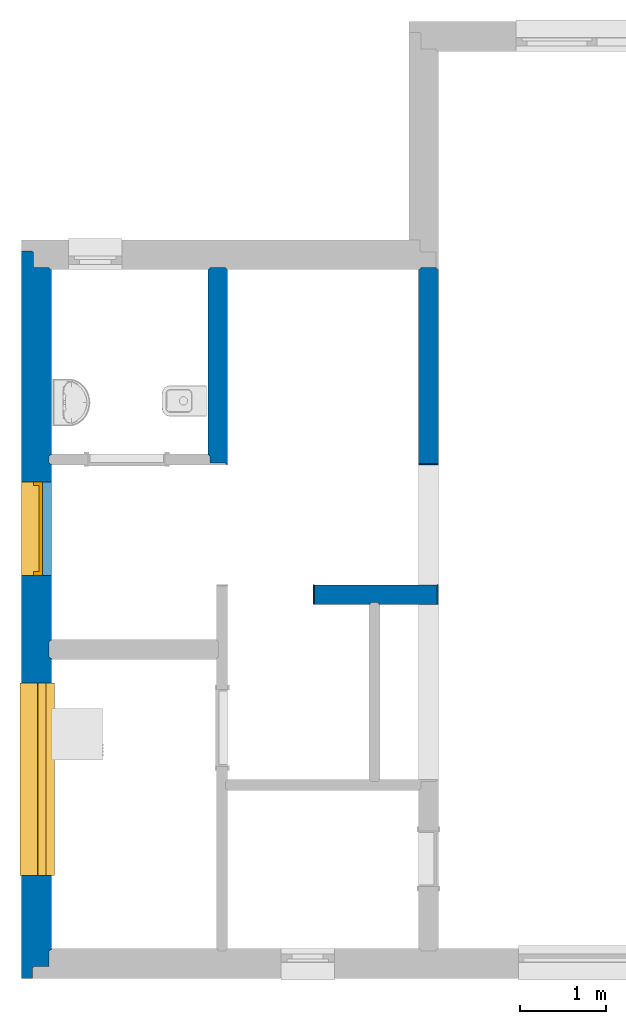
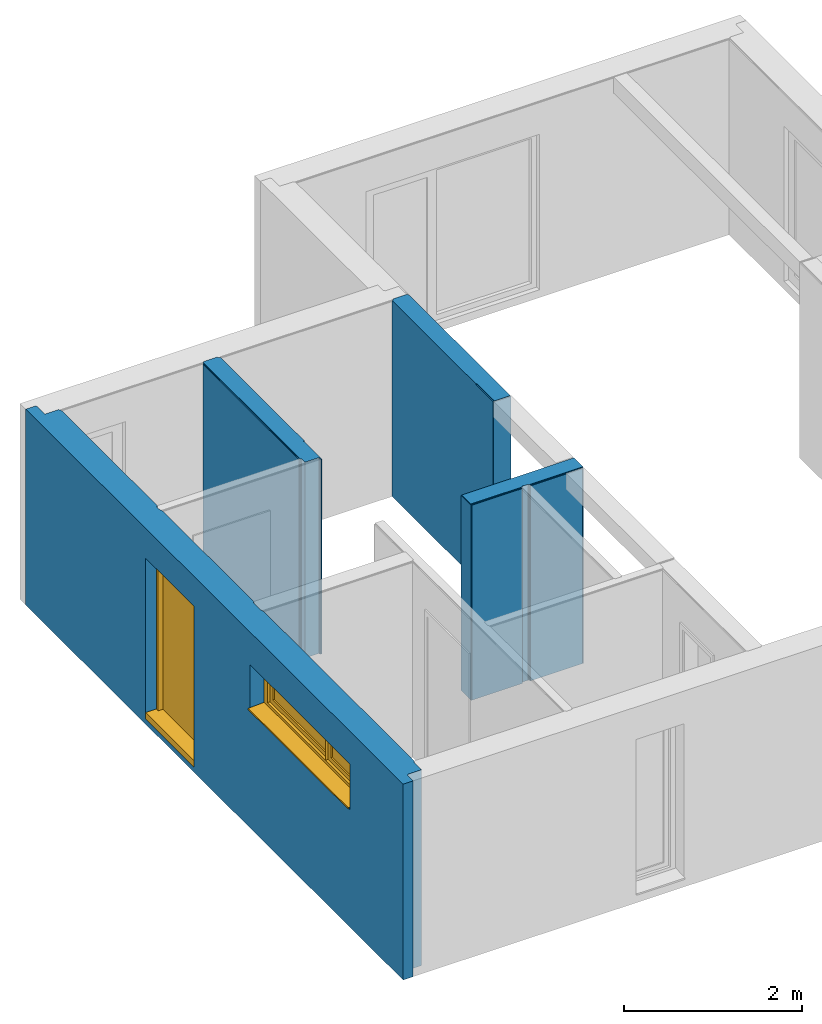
# One storey, part 3 of 6: 7 walls, 1 door, 1 window, 5 openings.
"""IFC2X3 building model written with IfcOpenShell, lengths in millimetres."""

from ifc_helpers import new_model, entity, si_unit, converted_unit, derived_unit, money_unit, direction, frame, origin_with_axes, place, context, subcontext, project, spatial, open_shell, faceted_brep, surface_model, material, material_list, type_object, element, fill, save


model = new_model("IFC2X3")

# Units and contexts
model_context = context("Model", 3, precision=0.01, world=origin_with_axes(), true_north=direction((0.0, 1.0)))
body_context = subcontext(model_context, "Body", "Model", "MODEL_VIEW")
ifc_project = project(units=[si_unit("LENGTHUNIT", "METRE", prefix="MILLI"), si_unit("AREAUNIT", "SQUARE_METRE"), si_unit("VOLUMEUNIT", "CUBIC_METRE"), converted_unit("PLANEANGLEUNIT", "DEGREE", entity("IfcPlaneAngleMeasure", 0.0174532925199), si_unit("PLANEANGLEUNIT", "RADIAN"), dimensions=[0, 0, 0, 0, 0, 0, 0]), si_unit("SOLIDANGLEUNIT", "STERADIAN"), money_unit("USD"), converted_unit("TIMEUNIT", "Year", entity("IfcTimeMeasure", 31556926.0), si_unit("TIMEUNIT", "SECOND"), dimensions=[0, 0, 1, 0, 0, 0, 0]), si_unit("MASSUNIT", "GRAM", prefix="KILO"), si_unit("THERMODYNAMICTEMPERATUREUNIT", "DEGREE_CELSIUS"), si_unit("LUMINOUSINTENSITYUNIT", "LUMEN"), si_unit("ENERGYUNIT", "JOULE", prefix="MEGA"), derived_unit("THERMALCONDUCTANCEUNIT", [(si_unit("POWERUNIT", "WATT"), 1), (si_unit("LENGTHUNIT", "METRE"), -1), (si_unit("THERMODYNAMICTEMPERATUREUNIT", "KELVIN"), -1)]), derived_unit("SPECIFICHEATCAPACITYUNIT", [(si_unit("ENERGYUNIT", "JOULE"), 1), (si_unit("MASSUNIT", "GRAM", prefix="KILO"), -1), (si_unit("THERMODYNAMICTEMPERATUREUNIT", "KELVIN"), -1)]), derived_unit("MASSDENSITYUNIT", [(si_unit("MASSUNIT", "GRAM", prefix="KILO"), 1), (si_unit("VOLUMEUNIT", "CUBIC_METRE"), -1)])], contexts=[model_context])

# Site, building, storey
site_placement = place(None, origin_with_axes())
site = spatial("IfcSite", under=ifc_project, at=site_placement, Name="Lokalizacja", CompositionType="ELEMENT")
building_placement = place(site_placement, origin_with_axes())
building = spatial("IfcBuilding", under=site, at=building_placement, Name="Budynek", CompositionType="ELEMENT")
storey_placement = place(building_placement, origin_with_axes())
storey = spatial("IfcBuildingStorey", under=building, at=storey_placement, Name="EG", CompositionType="ELEMENT", Elevation=0.0)

# Wall, openings, window, door
ifc_material_1 = material(Name="Płyty styropianowe miękkie")
ifc_material_2 = material(Name="Płyta OSB")
ifc_material_3 = material(Name="Drewno konstrukcyjne")
ifc_material_4 = material(Name="Płyta GK")
ifc_material_list_1 = material_list([ifc_material_1, ifc_material_2, ifc_material_3, ifc_material_2, ifc_material_4])
wall_type_1 = type_object("IfcWallType", Name="002- _dan_SZ_345 345", PredefinedType="NOTDEFINED")
wall_1_placement = place(storey_placement, frame((0.0, -7929.99990487, -160.0), z_axis=(0.0, 0.0, 1.0), x_axis=(0.0, 1.0, 0.0)))
wall_1 = element("IfcWall", 1, at=wall_1_placement, inside=storey, type_object=wall_type_1, material=ifc_material_list_1, Name="SZ1", context=body_context, shape_type="Brep", body=[
    faceted_brep([(8146.99990487, 345.0, 2690.0), (-345.0, 345.0, 2690.0), (-345.0, 217.0, 2690.0), (8146.99990487, 217.0, 2690.0), (8146.99990487, 345.0, 0.0), (-345.0, 345.0, 0.0), (-345.0, 217.0, 0.0), (8146.99990487, 217.0, 0.0)], [[[0, 1, 2, 3]], [[4, 5, 1, 0]], [[2, 1, 5, 6]], [[3, 2, 6, 7]], [[3, 7, 4, 0]], [[7, 6, 5, 4]]]),
    faceted_brep([(8134.99990487, 217.0, 2690.0), (-217.0, 217.0, 2690.0), (-217.0, 205.0, 2690.0), (8134.99990487, 205.0, 2690.0), (8134.99990487, 217.0, 0.0), (-217.0, 217.0, 0.0), (-217.0, 205.0, 0.0), (8134.99990487, 205.0, 0.0)], [[[0, 1, 2, 3]], [[4, 5, 1, 0]], [[2, 1, 5, 6]], [[3, 2, 6, 7]], [[3, 7, 4, 0]], [[7, 6, 5, 4]]]),
    faceted_brep([(7954.99990487, 205.0, 2690.0), (-205.0, 205.0, 2690.0), (-205.0, 25.0, 2690.0), (7954.99990487, 25.0, 2690.0), (7954.99990487, 205.0, 0.0), (-205.0, 205.0, 0.0), (-205.0, 25.0, 0.0), (7954.99990487, 25.0, 0.0)], [[[0, 1, 2, 3]], [[4, 5, 1, 0]], [[2, 1, 5, 6]], [[3, 2, 6, 7]], [[3, 7, 4, 0]], [[7, 6, 5, 4]]]),
    faceted_brep([(3404.86294496, 25.0, 2690.0), (-25.0, 25.0, 2690.0), (-25.0, 13.0, 2690.0), (3404.86294496, 13.0, 2690.0), (3404.86294496, 25.0, 0.0), (-25.0, 25.0, 0.0), (-25.0, 13.0, 0.0), (3404.86294496, 13.0, 0.0)], [[[0, 1, 2, 3]], [[4, 5, 1, 0]], [[2, 1, 5, 6]], [[3, 2, 6, 7]], [[3, 7, 4, 0]], [[7, 6, 5, 4]]]),
    faceted_brep([(5674.85819815, 25.0, 2690.0), (3584.86294496, 25.0, 2690.0), (3584.86294496, 13.0, 2690.0), (5674.85819815, 13.0, 2690.0), (5674.85819815, 25.0, 0.0), (3584.86294496, 25.0, 0.0), (3584.86294496, 13.0, 0.0), (5674.85819815, 13.0, 0.0)], [[[0, 1, 2, 3]], [[4, 5, 1, 0]], [[2, 1, 5, 6]], [[3, 2, 6, 7]], [[3, 7, 4, 0]], [[7, 6, 5, 4]]]),
    faceted_brep([(7942.99990487, 25.0, 2690.0), (5754.85819815, 25.0, 2690.0), (5754.85819815, 13.0, 2690.0), (7942.99990487, 13.0, 2690.0), (7942.99990487, 25.0, 0.0), (5754.85819815, 25.0, 0.0), (5754.85819815, 13.0, 0.0), (7942.99990487, 13.0, 0.0)], [[[0, 1, 2, 3]], [[4, 5, 1, 0]], [[2, 1, 5, 6]], [[3, 2, 6, 7]], [[3, 7, 4, 0]], [[7, 6, 5, 4]]]),
    faceted_brep([(3392.86294496, 13.0, 2678.0), (3392.86294496, 0.0, 2678.0), (3392.86294496, 0.0, 0.0), (3392.86294496, 13.0, 0.0), (-13.0, 0.0, 2678.0), (-13.0, 13.0, 2678.0), (-13.0, 0.0, 0.0), (-13.0, 13.0, 0.0)], [[[0, 1, 2, 3]], [[4, 1, 0, 5]], [[1, 4, 6, 2]], [[3, 2, 6, 7]], [[5, 0, 3, 7]], [[4, 5, 7, 6]]]),
    faceted_brep([(5662.85819815, 13.0, 2678.0), (5662.85819815, 0.0, 2678.0), (5662.85819815, 0.0, 0.0), (5662.85819815, 13.0, 0.0), (3596.86294496, 0.0, 2678.0), (3596.86294496, 13.0, 2678.0), (3596.86294496, 0.0, 0.0), (3596.86294496, 13.0, 0.0)], [[[0, 1, 2, 3]], [[4, 1, 0, 5]], [[1, 4, 6, 2]], [[3, 2, 6, 7]], [[5, 0, 3, 7]], [[4, 5, 7, 6]]]),
    faceted_brep([(7929.99990487, 13.0, 2678.0), (7929.99990487, 0.0, 2678.0), (7929.99990487, 0.0, 0.0), (7929.99990487, 13.0, 0.0), (5766.85819815, 0.0, 2678.0), (5766.85819815, 13.0, 2678.0), (5766.85819815, 0.0, 0.0), (5766.85819815, 13.0, 0.0)], [[[0, 1, 2, 3]], [[4, 1, 0, 5]], [[1, 4, 6, 2]], [[3, 2, 6, 7]], [[5, 0, 3, 7]], [[4, 5, 7, 6]]]),
])
opening_1_placement = place(wall_1_placement, frame((1979.99997989, 0.0, 1617.0), z_axis=(0.0, 0.0, 1.0), x_axis=(1.0, 0.0, 0.0)))
opening_1 = element("IfcOpeningElement", 2, at=opening_1_placement, cuts=wall_1, context=body_context, shape_type="Brep", body=[
    faceted_brep([(1125.0, 157.0, 625.0), (1125.0, 157.0, 0.0), (1125.0, 690.0, 0.0), (1125.0, 690.0, 625.0), (-1125.0, 157.0, 625.0), (-1125.0, 157.0, 0.0), (-1125.0, 690.0, 0.0), (-1125.0, 690.0, 625.0)], [[[0, 1, 2, 3]], [[0, 4, 5, 1]], [[1, 5, 6, 2]], [[3, 2, 6, 7]], [[4, 0, 3, 7]], [[5, 4, 7, 6]]]),
    faceted_brep([(1125.0, 157.0, 0.0), (1125.0, 157.0, 625.0), (1125.0, -345.0, 625.0), (1125.0, -345.0, 0.0), (-1125.0, 157.0, 0.0), (-1125.0, 157.0, 625.0), (-1125.0, -345.0, 625.0), (-1125.0, -345.0, 0.0)], [[[0, 1, 2, 3]], [[0, 4, 5, 1]], [[1, 5, 6, 2]], [[3, 2, 6, 7]], [[4, 0, 3, 7]], [[5, 4, 7, 6]]]),
])
opening_2_placement = place(wall_1_placement, frame((4904.85835866, 0.0, 70.0), z_axis=(0.0, 0.0, 1.0), x_axis=(1.0, 0.0, 0.0)))
opening_2 = element("IfcOpeningElement", 3, at=opening_2_placement, cuts=wall_1, Name="D5", context=body_context, shape_type="Brep", body=[
    faceted_brep([(545.0, 205.0, 0.0), (545.0, 205.0, 2210.0), (545.0, -345.0, 2210.0), (545.0, -345.0, 0.0), (-545.0, 205.0, 0.0), (-545.0, 205.0, 2210.0), (-545.0, -345.0, 2210.0), (-545.0, -345.0, 0.0)], [[[0, 1, 2, 3]], [[0, 4, 5, 1]], [[1, 5, 6, 2]], [[3, 2, 6, 7]], [[4, 0, 3, 7]], [[5, 4, 7, 6]]]),
    faceted_brep([(545.0, 205.0, 2210.0), (545.0, 205.0, 0.0), (545.0, 690.0, 0.0), (545.0, 690.0, 2210.0), (-545.0, 205.0, 2210.0), (-545.0, 205.0, 0.0), (-545.0, 690.0, 0.0), (-545.0, 690.0, 2210.0)], [[[0, 1, 2, 3]], [[0, 4, 5, 1]], [[1, 5, 6, 2]], [[3, 2, 6, 7]], [[4, 0, 3, 7]], [[5, 4, 7, 6]]]),
])
window_style = type_object("IfcWindowStyle", Name="Okno podwójne 24", ConstructionType="NOTDEFINED", OperationType="DOUBLE_PANEL_VERTICAL", ParameterTakesPrecedence=False, Sizeable=False)
window_placement = place(opening_1_placement, frame((1115.0, 0.0, 0.0), z_axis=(0.0, 0.0, 1.0), x_axis=(-1.0, 0.0, 0.0)))
window = element("IfcWindow", 4, at=window_placement, inside=storey, type_object=window_style, OverallHeight=625.0, OverallWidth=2250.0, context=body_context, shape_type="SurfaceModel", body=[
    surface_model("IfcShellBasedSurfaceModel", [(2240.0, -158.0, 50.0), (-10.0, -158.0, 50.0), (-10.0, -158.0, 40.0), (2240.0, -158.0, 40.0), (-10.0, -365.0, 28.9361702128), (2240.0, -365.0, 28.9361702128), (-10.0, -365.0, 8.93617021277), (2240.0, -365.0, 8.93617021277), (-10.0, -355.0, 18.9361702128), (2240.0, -355.0, 18.9361702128)], [open_shell([[[0, 1, 2, 3]], [[3, 2, 4, 5]], [[5, 4, 6, 7]], [[7, 6, 8, 9]]])]),
    faceted_brep([(-10.0, -61.0, 0.0), (-10.0, -61.0, 30.0), (-10.0, 0.0, 30.0), (-10.0, 0.0, 0.0), (2240.0, -61.0, 0.0), (2240.0, -61.0, 30.0), (2240.0, 0.0, 30.0), (2240.0, 40.0, 30.0), (-10.0, 40.0, 30.0), (-10.0, 40.0, 0.0), (2240.0, 40.0, 0.0), (2240.0, 0.0, 0.0)], [[[0, 1, 2, 3]], [[4, 5, 1, 0]], [[1, 5, 6, 7, 8, 2]], [[3, 2, 8, 9]], [[0, 3, 9, 10, 11, 4]], [[11, 6, 5, 4]], [[10, 7, 6, 11]], [[9, 8, 7, 10]]]),
    faceted_brep([(2170.1, -61.0, 555.0), (2170.1, -121.0, 555.0), (2170.0, -121.0, 555.0), (2170.0, -157.0, 555.0), (2240.0, -157.0, 555.0), (2240.0, -61.0, 555.0), (2170.1, -61.0, 77.0), (2170.1, -121.0, 77.0), (2170.0, -121.0, 77.0), (2170.0, -157.0, 77.0), (2240.0, -157.0, 77.0), (2240.0, -61.0, 77.0)], [[[0, 1, 2, 3, 4, 5]], [[1, 0, 6, 7]], [[8, 2, 1, 7]], [[2, 8, 9, 3]], [[4, 3, 9, 10]], [[5, 4, 10, 11]], [[6, 0, 5, 11]], [[7, 6, 11, 10, 9, 8]]]),
    faceted_brep([(60.0, -121.0, 555.0), (59.9, -121.0, 555.0), (59.9, -61.0, 555.0), (-10.0, -61.0, 555.0), (-10.0, -157.0, 555.0), (60.0, -157.0, 555.0), (60.0, -121.0, 77.0), (59.9, -121.0, 77.0), (59.9, -61.0, 77.0), (-10.0, -61.0, 77.0), (-10.0, -157.0, 77.0), (60.0, -157.0, 77.0)], [[[0, 1, 2, 3, 4, 5]], [[1, 0, 6, 7]], [[8, 2, 1, 7]], [[2, 8, 9, 3]], [[9, 10, 4, 3]], [[10, 11, 5, 4]], [[6, 0, 5, 11]], [[7, 6, 11, 10, 9, 8]]]),
    faceted_brep([(1365.1, -121.0, 555.0), (1364.9, -121.0, 555.0), (1364.9, -157.0, 555.0), (1365.1, -157.0, 555.0), (1365.1, -121.0, 77.0), (1364.9, -121.0, 77.0), (1364.9, -157.0, 77.0), (1365.1, -157.0, 77.0)], [[[0, 1, 2, 3]], [[1, 0, 4, 5]], [[1, 5, 6, 2]], [[6, 7, 3, 2]], [[4, 0, 3, 7]], [[4, 7, 6, 5]]]),
    faceted_brep([(1365.1, -121.0, 77.0), (1364.9, -121.0, 77.0), (1364.9, -157.0, 77.0), (1365.1, -157.0, 77.0), (2170.0, -121.0, 77.0), (2170.1, -121.0, 77.0), (2170.1, -121.0, 76.9), (59.9, -121.0, 76.9), (59.9, -121.0, 77.0), (60.0, -121.0, 77.0), (60.0, -157.0, 77.0), (2240.0, -157.0, 77.0), (2170.0, -157.0, 77.0), (-10.0, -157.0, 77.0), (-10.0, -157.0, 0.0), (2240.0, -157.0, 0.0), (2240.0, -61.0, 77.0), (2170.1, -61.0, 77.0), (2170.1, -61.0, 76.9), (59.9, -61.0, 76.9), (59.9, -61.0, 77.0), (-10.0, -61.0, 77.0), (-10.0, -61.0, 0.0), (2240.0, -61.0, 0.0)], [[[0, 1, 2, 3]], [[1, 0, 4, 5, 6, 7, 8, 9]], [[1, 9, 10, 2]], [[11, 12, 3, 2, 10, 13, 14, 15]], [[4, 0, 3, 12]], [[5, 4, 12, 11, 16, 17]], [[5, 17, 18, 6]], [[6, 18, 19, 7]], [[19, 20, 8, 7]], [[9, 8, 20, 21, 13, 10]], [[22, 14, 13, 21]], [[23, 15, 14, 22]], [[16, 11, 15, 23]], [[18, 17, 16, 23, 22, 21, 20, 19]]]),
    faceted_brep([(2170.1, -61.0, 555.0), (2170.1, -61.0, 555.1), (59.9, -61.0, 555.1), (59.9, -61.0, 555.0), (-10.0, -61.0, 555.0), (-10.0, -61.0, 625.0), (2240.0, -61.0, 625.0), (2240.0, -61.0, 555.0), (2170.1, -121.0, 555.0), (2170.1, -121.0, 555.1), (59.9, -121.0, 555.1), (59.9, -121.0, 555.0), (60.0, -121.0, 555.0), (60.0, -157.0, 555.0), (-10.0, -157.0, 555.0), (-10.0, -157.0, 625.0), (2240.0, -157.0, 625.0), (2240.0, -157.0, 555.0), (2170.0, -157.0, 555.0), (2170.0, -121.0, 555.0), (1365.1, -121.0, 555.0), (1364.9, -121.0, 555.0), (1364.9, -157.0, 555.0), (1365.1, -157.0, 555.0)], [[[0, 1, 2, 3, 4, 5, 6, 7]], [[1, 0, 8, 9]], [[2, 1, 9, 10]], [[3, 2, 10, 11]], [[11, 12, 13, 14, 4, 3]], [[4, 14, 15, 5]], [[5, 15, 16, 6]], [[6, 16, 17, 7]], [[8, 0, 7, 17, 18, 19]], [[9, 8, 19, 20, 21, 12, 11, 10]], [[12, 21, 22, 13]], [[22, 23, 18, 17, 16, 15, 14, 13]], [[20, 19, 18, 23]], [[20, 23, 22, 21]]]),
    faceted_brep([(2110.1, -121.0, 495.1), (2170.1, -121.0, 495.1), (2170.1, -61.0, 495.1), (2110.1, -61.0, 495.1), (2110.1, -121.0, 136.9), (2170.1, -121.0, 136.9), (2170.1, -61.0, 136.9), (2110.1, -61.0, 136.9)], [[[0, 1, 2, 3]], [[0, 4, 5, 1]], [[1, 5, 6, 2]], [[3, 2, 6, 7]], [[4, 0, 3, 7]], [[5, 4, 7, 6]]]),
    faceted_brep([(1425.0, -121.0, 136.9), (1365.0, -121.0, 136.9), (1365.0, -61.0, 136.9), (1425.0, -61.0, 136.9), (1425.0, -121.0, 495.1), (1365.0, -121.0, 495.1), (1365.0, -61.0, 495.1), (1425.0, -61.0, 495.1)], [[[0, 1, 2, 3]], [[0, 4, 5, 1]], [[1, 5, 6, 2]], [[3, 2, 6, 7]], [[4, 0, 3, 7]], [[5, 4, 7, 6]]]),
    faceted_brep([(1365.0, -121.0, 76.9), (1365.0, -121.0, 136.9), (1365.0, -61.0, 136.9), (1365.0, -61.0, 76.9), (2170.1, -121.0, 76.9), (2170.1, -121.0, 136.9), (2110.1, -121.0, 136.9), (1425.0, -121.0, 136.9), (1425.0, -61.0, 136.9), (2110.1, -61.0, 136.9), (2170.1, -61.0, 136.9), (2170.1, -61.0, 76.9)], [[[0, 1, 2, 3]], [[0, 4, 5, 6, 7, 1]], [[1, 7, 8, 2]], [[3, 2, 8, 9, 10, 11]], [[4, 0, 3, 11]], [[5, 4, 11, 10]], [[6, 5, 10, 9]], [[7, 6, 9, 8]]]),
    faceted_brep([(2170.1, -121.0, 555.1), (2170.1, -121.0, 495.1), (2170.1, -61.0, 495.1), (2170.1, -61.0, 555.1), (1365.0, -121.0, 555.1), (1365.0, -121.0, 495.1), (1425.0, -121.0, 495.1), (2110.1, -121.0, 495.1), (2110.1, -61.0, 495.1), (1425.0, -61.0, 495.1), (1365.0, -61.0, 495.1), (1365.0, -61.0, 555.1)], [[[0, 1, 2, 3]], [[0, 4, 5, 6, 7, 1]], [[1, 7, 8, 2]], [[3, 2, 8, 9, 10, 11]], [[4, 0, 3, 11]], [[5, 4, 11, 10]], [[6, 5, 10, 9]], [[7, 6, 9, 8]]]),
    surface_model("IfcShellBasedSurfaceModel", [(2110.1, -101.0, 136.9), (2110.1, -101.0, 495.1), (1425.0, -101.0, 495.1), (1425.0, -101.0, 136.9)], [open_shell([[[0, 1, 2, 3]]])]),
    surface_model("IfcShellBasedSurfaceModel", [(2110.1, -81.0, 136.9), (1425.0, -81.0, 136.9), (1425.0, -81.0, 495.1), (2110.1, -81.0, 495.1)], [open_shell([[[0, 1, 2, 3]]])]),
    faceted_brep([(1305.0, -121.0, 495.1), (1365.0, -121.0, 495.1), (1365.0, -61.0, 495.1), (1305.0, -61.0, 495.1), (1305.0, -121.0, 136.9), (1365.0, -121.0, 136.9), (1365.0, -61.0, 136.9), (1305.0, -61.0, 136.9)], [[[0, 1, 2, 3]], [[0, 4, 5, 1]], [[1, 5, 6, 2]], [[3, 2, 6, 7]], [[4, 0, 3, 7]], [[5, 4, 7, 6]]]),
    faceted_brep([(119.9, -121.0, 136.9), (59.9, -121.0, 136.9), (59.9, -61.0, 136.9), (119.9, -61.0, 136.9), (119.9, -121.0, 495.1), (59.9, -121.0, 495.1), (59.9, -61.0, 495.1), (119.9, -61.0, 495.1)], [[[0, 1, 2, 3]], [[0, 4, 5, 1]], [[1, 5, 6, 2]], [[3, 2, 6, 7]], [[4, 0, 3, 7]], [[5, 4, 7, 6]]]),
    faceted_brep([(59.9, -121.0, 76.9), (59.9, -121.0, 136.9), (59.9, -61.0, 136.9), (59.9, -61.0, 76.9), (1365.0, -121.0, 76.9), (1365.0, -121.0, 136.9), (1305.0, -121.0, 136.9), (119.9, -121.0, 136.9), (119.9, -61.0, 136.9), (1305.0, -61.0, 136.9), (1365.0, -61.0, 136.9), (1365.0, -61.0, 76.9)], [[[0, 1, 2, 3]], [[0, 4, 5, 6, 7, 1]], [[1, 7, 8, 2]], [[3, 2, 8, 9, 10, 11]], [[4, 0, 3, 11]], [[5, 4, 11, 10]], [[6, 5, 10, 9]], [[7, 6, 9, 8]]]),
    faceted_brep([(1365.0, -121.0, 555.1), (1365.0, -121.0, 495.1), (1365.0, -61.0, 495.1), (1365.0, -61.0, 555.1), (59.9, -121.0, 555.1), (59.9, -121.0, 495.1), (119.9, -121.0, 495.1), (1305.0, -121.0, 495.1), (1305.0, -61.0, 495.1), (119.9, -61.0, 495.1), (59.9, -61.0, 495.1), (59.9, -61.0, 555.1)], [[[0, 1, 2, 3]], [[0, 4, 5, 6, 7, 1]], [[1, 7, 8, 2]], [[3, 2, 8, 9, 10, 11]], [[4, 0, 3, 11]], [[5, 4, 11, 10]], [[6, 5, 10, 9]], [[7, 6, 9, 8]]]),
    surface_model("IfcShellBasedSurfaceModel", [(1305.0, -101.0, 136.9), (1305.0, -101.0, 495.1), (119.9, -101.0, 495.1), (119.9, -101.0, 136.9)], [open_shell([[[0, 1, 2, 3]]])]),
    surface_model("IfcShellBasedSurfaceModel", [(1305.0, -81.0, 136.9), (119.9, -81.0, 136.9), (119.9, -81.0, 495.1), (1305.0, -81.0, 495.1)], [open_shell([[[0, 1, 2, 3]]])]),
])
fill(opening_1, window)
door_style = type_object("IfcDoorStyle", Name="Drzwi 24", ConstructionType="NOTDEFINED", OperationType="SINGLE_SWING_LEFT", ParameterTakesPrecedence=False, Sizeable=False)
door_placement = place(opening_2_placement, frame((545.0, 0.0, 0.0), z_axis=(0.0, 0.0, 1.0), x_axis=(-1.0, 0.0, 0.0)))
door = element("IfcDoor", 5, at=door_placement, inside=storey, type_object=door_style, Name="D5", OverallHeight=2210.0, OverallWidth=1090.0, context=body_context, shape_type="Brep", body=[
    faceted_brep([(1090.0, -205.0, 0.0), (1090.0, -205.0, 90.0), (1090.0, -345.0, 90.0), (1090.0, -345.0, 0.0), (1047.0, -205.0, 0.0), (1047.0, -205.0, 90.0), (1047.0, -145.0, 90.0), (43.0, -145.0, 90.0), (43.0, -205.0, 90.0), (0.0, -205.0, 90.0), (0.0, -345.0, 90.0), (0.0, -345.1, 90.0), (1090.0, -345.1, 90.0), (1090.0, -345.1, 0.0), (0.0, -345.1, 0.0), (0.0, -345.0, 0.0), (0.0, -205.0, 0.0), (43.0, -205.0, 0.0), (43.0, -145.0, 0.0), (1047.0, -145.0, 0.0)], [[[0, 1, 2, 3]], [[4, 5, 1, 0]], [[1, 5, 6, 7, 8, 9, 10, 11, 12, 2]], [[3, 2, 12, 13]], [[0, 3, 13, 14, 15, 16, 17, 18, 19, 4]], [[19, 6, 5, 4]], [[18, 7, 6, 19]], [[17, 8, 7, 18]], [[16, 9, 8, 17]], [[15, 10, 9, 16]], [[14, 11, 10, 15]], [[13, 12, 11, 14]]]),
    faceted_brep([(1090.0, -105.0, 0.0), (1090.0, -205.0, 0.0), (1047.0, -205.0, 0.0), (1047.0, -105.0, 0.0), (1090.0, -105.0, 2120.0), (1090.0, -205.0, 2120.0), (1047.0, -205.0, 2120.0), (1047.0, -105.0, 2120.0)], [[[0, 1, 2, 3]], [[4, 5, 1, 0]], [[1, 5, 6, 2]], [[3, 2, 6, 7]], [[0, 3, 7, 4]], [[7, 6, 5, 4]]]),
    faceted_brep([(0.0, -105.0, 0.0), (0.0, -205.0, 0.0), (0.0, -205.0, 2120.0), (0.0, -105.0, 2120.0), (43.0, -105.0, 0.0), (43.0, -205.0, 0.0), (43.0, -205.0, 2120.0), (43.0, -105.0, 2120.0)], [[[0, 1, 2, 3]], [[4, 5, 1, 0]], [[1, 5, 6, 2]], [[3, 2, 6, 7]], [[0, 3, 7, 4]], [[7, 6, 5, 4]]]),
    faceted_brep([(1090.0, -105.0, 2210.0), (1090.0, -205.0, 2210.0), (1090.0, -205.0, 2120.0), (1090.0, -105.0, 2120.0), (0.0, -105.0, 2210.0), (0.0, -205.0, 2210.0), (0.0, -205.0, 2120.0), (43.0, -205.0, 2120.0), (1047.0, -205.0, 2120.0), (1047.0, -105.0, 2120.0), (43.0, -105.0, 2120.0), (0.0, -105.0, 2120.0)], [[[0, 1, 2, 3]], [[4, 5, 1, 0]], [[1, 5, 6, 7, 8, 2]], [[3, 2, 8, 9]], [[0, 3, 9, 10, 11, 4]], [[11, 6, 5, 4]], [[10, 7, 6, 11]], [[9, 8, 7, 10]]]),
    faceted_brep([(43.0, -105.0, 0.0), (1047.0, -105.0, 0.0), (1047.0, -145.0, 0.0), (43.0, -145.0, 0.0), (43.0, -105.0, 2120.0), (1047.0, -105.0, 2120.0), (1047.0, -145.0, 2120.0), (43.0, -145.0, 2120.0)], [[[0, 1, 2, 3]], [[0, 4, 5, 1]], [[1, 5, 6, 2]], [[3, 2, 6, 7]], [[4, 0, 3, 7]], [[5, 4, 7, 6]]]),
])
fill(opening_2, door)

# Wall
ifc_material_list_2 = material_list([ifc_material_4, ifc_material_2, ifc_material_3, ifc_material_2, ifc_material_4])
wall_type_2 = type_object("IfcWallType", Name="025- _dan_SW_230 230", PredefinedType="NOTDEFINED")
wall_2_placement = place(storey_placement, frame((2060.0, 0.0, -160.0), z_axis=(0.0, 0.0, 1.0), x_axis=(0.0, -1.0, 0.0)))
element("IfcWall", 6, at=wall_2_placement, inside=storey, type_object=wall_type_2, material=ifc_material_list_2, Name="SW4", context=body_context, shape_type="Brep", body=[
    faceted_brep([(1888.1417, -13.0, 2690.0), (1888.1417, 0.0, 2690.0), (0.0, 0.0, 2690.0), (0.0, -13.0, 2690.0), (1888.1417, 0.0, 2678.0), (1888.1417, -13.0, 2678.0), (2280.14170672, 0.0, 2678.0), (2280.14170672, 0.0, 0.0), (0.0, 0.0, 0.0), (0.0, -13.0, 0.0), (2280.14170672, -13.0, 0.0), (2280.14170672, -13.0, 2678.0)], [[[0, 1, 2, 3]], [[4, 1, 0, 5]], [[4, 6, 7, 8, 2, 1]], [[9, 3, 2, 8]], [[5, 0, 3, 9, 10, 11]], [[6, 4, 5, 11]], [[6, 11, 10, 7]], [[7, 10, 9, 8]]]),
    faceted_brep([(2267.14170672, -13.0, 2690.0), (-13.0, -13.0, 2690.0), (-13.0, -25.0, 2690.0), (2267.14170672, -25.0, 2690.0), (2267.14170672, -13.0, 0.0), (-13.0, -13.0, 0.0), (-13.0, -25.0, 0.0), (2267.14170672, -25.0, 0.0)], [[[0, 1, 2, 3]], [[4, 5, 1, 0]], [[2, 1, 5, 6]], [[3, 2, 6, 7]], [[3, 7, 4, 0]], [[7, 6, 5, 4]]]),
    faceted_brep([(2255.14170672, -25.0, 2690.0), (-25.0, -25.0, 2690.0), (-25.0, -205.0, 2690.0), (2255.14170672, -205.0, 2690.0), (2255.14170672, -25.0, 0.0), (-25.0, -25.0, 0.0), (-25.0, -205.0, 0.0), (2255.14170672, -205.0, 0.0)], [[[0, 1, 2, 3]], [[4, 5, 1, 0]], [[2, 1, 5, 6]], [[3, 2, 6, 7]], [[3, 7, 4, 0]], [[7, 6, 5, 4]]]),
    faceted_brep([(2175.14170672, -205.0, 2690.0), (-13.0, -205.0, 2690.0), (-13.0, -217.0, 2690.0), (2175.14170672, -217.0, 2690.0), (2175.14170672, -205.0, 0.0), (-13.0, -205.0, 0.0), (-13.0, -217.0, 0.0), (2175.14170672, -217.0, 0.0)], [[[0, 1, 2, 3]], [[4, 5, 1, 0]], [[2, 1, 5, 6]], [[3, 2, 6, 7]], [[3, 7, 4, 0]], [[7, 6, 5, 4]]]),
    faceted_brep([(0.0, -230.0, 2678.0), (2163.14170672, -230.0, 2678.0), (2163.14170672, -217.0, 2678.0), (0.0, -217.0, 2678.0), (0.0, -230.0, 0.0), (2163.14170672, -230.0, 0.0), (2163.14170672, -217.0, 0.0), (0.0, -217.0, 0.0)], [[[0, 1, 2, 3]], [[1, 0, 4, 5]], [[2, 1, 5, 6]], [[2, 6, 7, 3]], [[0, 3, 7, 4]], [[6, 5, 4, 7]]]),
])

# Walls, openings
wall_3_placement = place(storey_placement, frame((4520.0, -3680.13695991, -160.0), z_axis=(0.0, 0.0, 1.0), x_axis=(-1.0, 0.0, 0.0)))
wall_3 = element("IfcWall", 7, at=wall_3_placement, inside=storey, type_object=wall_type_2, material=ifc_material_list_2, Name="SW4", context=body_context, shape_type="Brep", body=[
    faceted_brep([(692.999988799, 217.0, 2678.0), (0.0, 217.0, 2678.0), (0.0, 217.0, 0.0), (692.999988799, 217.0, 0.0), (0.0, 230.0, 2678.0), (692.999988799, 230.0, 2678.0), (0.0, 230.0, 0.0), (692.999988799, 230.0, 0.0)], [[[0, 1, 2, 3]], [[4, 1, 0, 5]], [[1, 4, 6, 2]], [[7, 3, 2, 6]], [[5, 0, 3, 7]], [[4, 5, 7, 6]]]),
    faceted_brep([(1460.0, 217.0, 2678.0), (796.999988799, 217.0, 2678.0), (796.999988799, 217.0, 0.0), (1460.0, 217.0, 0.0), (796.999988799, 230.0, 2678.0), (1460.0, 230.0, 2678.0), (796.999988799, 230.0, 0.0), (1460.0, 230.0, 0.0)], [[[0, 1, 2, 3]], [[4, 1, 0, 5]], [[1, 4, 6, 2]], [[6, 7, 3, 2]], [[5, 0, 3, 7]], [[4, 5, 7, 6]]]),
    faceted_brep([(704.999988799, 205.0, 0.0), (0.0, 205.0, 0.0), (0.0, 217.0, 0.0), (704.999988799, 217.0, 0.0), (704.999988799, 205.0, 2690.0), (0.0, 205.0, 2690.0), (0.0, 217.0, 2690.0), (704.999988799, 217.0, 2690.0)], [[[0, 1, 2, 3]], [[4, 5, 1, 0]], [[2, 1, 5, 6]], [[3, 2, 6, 7]], [[3, 7, 4, 0]], [[7, 6, 5, 4]]]),
    faceted_brep([(1460.0, 217.0, 0.0), (1460.0, 205.0, 0.0), (784.999988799, 205.0, 0.0), (784.999988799, 217.0, 0.0), (1460.0, 217.0, 2690.0), (1460.0, 205.0, 2690.0), (784.999988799, 205.0, 2690.0), (784.999988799, 217.0, 2690.0)], [[[0, 1, 2, 3]], [[0, 4, 5, 1]], [[1, 5, 6, 2]], [[3, 2, 6, 7]], [[4, 0, 3, 7]], [[5, 4, 7, 6]]]),
    faceted_brep([(1460.0, 205.0, 0.0), (1460.0, 25.0, 0.0), (0.0, 25.0, 0.0), (0.0, 205.0, 0.0), (1460.0, 205.0, 2690.0), (1460.0, 25.0, 2690.0), (0.0, 25.0, 2690.0), (0.0, 205.0, 2690.0)], [[[0, 1, 2, 3]], [[0, 4, 5, 1]], [[1, 5, 6, 2]], [[3, 2, 6, 7]], [[4, 0, 3, 7]], [[5, 4, 7, 6]]]),
    faceted_brep([(1460.0, 25.0, 0.0), (1460.0, 13.0, 0.0), (0.0, 13.0, 0.0), (0.0, 25.0, 0.0), (1460.0, 25.0, 2690.0), (1460.0, 13.0, 2690.0), (0.0, 13.0, 2690.0), (0.0, 25.0, 2690.0)], [[[0, 1, 2, 3]], [[0, 4, 5, 1]], [[1, 5, 6, 2]], [[3, 2, 6, 7]], [[4, 0, 3, 7]], [[5, 4, 7, 6]]]),
    faceted_brep([(1460.0, 0.0, 2678.0), (0.0, 0.0, 2678.0), (0.0, 0.0, 0.0), (1460.0, 0.0, 0.0), (0.0, 13.0, 2678.0), (1460.0, 13.0, 2678.0), (0.0, 13.0, 0.0), (1460.0, 13.0, 0.0)], [[[0, 1, 2, 3]], [[4, 1, 0, 5]], [[1, 4, 6, 2]], [[6, 7, 3, 2]], [[5, 0, 3, 7]], [[4, 5, 7, 6]]]),
])
opening_3_placement = place(wall_3_placement, frame((1460.0, 0.0, 0.0), z_axis=(0.0, 0.0, 1.0), x_axis=(1.0, 0.0, 0.0)))
opening_3 = element("IfcOpeningElement", 8, at=opening_3_placement, cuts=wall_3, Name="ZS4", context=body_context, shape_type="Brep", body=[
    faceted_brep([(-13.0, 217.0, 0.0), (0.0, 217.0, 0.0), (0.0, 217.0, 2678.0), (-13.0, 217.0, 2678.0), (-13.0, 230.0, 0.0), (0.0, 230.0, 0.0), (0.0, 230.0, 2678.0), (-13.0, 230.0, 2678.0)], [[[0, 1, 2, 3]], [[0, 4, 5, 1]], [[1, 5, 6, 2]], [[3, 2, 6, 7]], [[4, 0, 3, 7]], [[5, 4, 7, 6]]]),
    faceted_brep([(-13.0, 0.0, 0.0), (0.0, 0.0, 0.0), (0.0, 0.0, 2678.0), (-13.0, 0.0, 2678.0), (-13.0, 13.0, 0.0), (0.0, 13.0, 0.0), (0.0, 13.0, 2678.0), (-13.0, 13.0, 2678.0)], [[[0, 1, 2, 3]], [[0, 4, 5, 1]], [[1, 5, 6, 2]], [[3, 2, 6, 7]], [[4, 0, 3, 7]], [[5, 4, 7, 6]]]),
    faceted_brep([(-13.0, 13.0, 0.0), (0.0, 13.0, 0.0), (0.0, 13.0, 2678.0), (-13.0, 13.0, 2678.0), (-13.0, 217.0, 0.0), (0.0, 217.0, 0.0), (0.0, 217.0, 2678.0), (-13.0, 217.0, 2678.0)], [[[0, 1, 2, 3]], [[0, 4, 5, 1]], [[1, 5, 6, 2]], [[3, 2, 6, 7]], [[4, 0, 3, 7]], [[5, 4, 7, 6]]]),
])
opening_4_placement = place(wall_3_placement, origin_with_axes())
opening_4 = element("IfcOpeningElement", 9, at=opening_4_placement, cuts=wall_3, Name="ZS4", context=body_context, shape_type="Brep", body=[
    faceted_brep([(13.0, 13.0, 0.0), (0.0, 13.0, 0.0), (0.0, 13.0, 2678.0), (13.0, 13.0, 2678.0), (13.0, 0.0, 0.0), (0.0, 0.0, 0.0), (0.0, 0.0, 2678.0), (13.0, 0.0, 2678.0)], [[[0, 1, 2, 3]], [[0, 4, 5, 1]], [[1, 5, 6, 2]], [[3, 2, 6, 7]], [[4, 0, 3, 7]], [[5, 4, 7, 6]]]),
    faceted_brep([(13.0, 230.0, 0.0), (0.0, 230.0, 0.0), (0.0, 230.0, 2678.0), (13.0, 230.0, 2678.0), (13.0, 217.0, 0.0), (0.0, 217.0, 0.0), (0.0, 217.0, 2678.0), (13.0, 217.0, 2678.0)], [[[0, 1, 2, 3]], [[0, 4, 5, 1]], [[1, 5, 6, 2]], [[3, 2, 6, 7]], [[4, 0, 3, 7]], [[5, 4, 7, 6]]]),
    faceted_brep([(13.0, 217.0, 0.0), (0.0, 217.0, 0.0), (0.0, 217.0, 2678.0), (13.0, 217.0, 2678.0), (13.0, 13.0, 0.0), (0.0, 13.0, 0.0), (0.0, 13.0, 2678.0), (13.0, 13.0, 2678.0)], [[[0, 1, 2, 3]], [[0, 4, 5, 1]], [[1, 5, 6, 2]], [[3, 2, 6, 7]], [[4, 0, 3, 7]], [[5, 4, 7, 6]]]),
])
wall_type_3 = type_object("IfcWallType", Name="Zakończenie zamknięte 24", PredefinedType="NOTDEFINED")
wall_4_placement = place(opening_3_placement, frame((6.5, 0.0, 0.0), z_axis=(0.0, 0.0, 1.0), x_axis=(-1.0, 0.0, 0.0)))
wall_4 = element("IfcWall", 10, at=wall_4_placement, inside=storey, type_object=wall_type_3, material=ifc_material_4, Name="ZS4", context=body_context, shape_type="Brep", body=[
    faceted_brep([(6.5, -230.0, 0.0), (19.5, -230.0, 0.0), (19.5, -230.0, 2678.0), (6.5, -230.0, 2678.0), (6.5, -217.0, 0.0), (19.5, -217.0, 0.0), (19.5, -217.0, 2678.0), (6.5, -217.0, 2678.0)], [[[0, 1, 2, 3]], [[4, 5, 1, 0]], [[5, 6, 2, 1]], [[6, 7, 3, 2]], [[7, 4, 0, 3]], [[4, 7, 6, 5]]]),
    faceted_brep([(6.5, -13.0, 0.0), (19.5, -13.0, 0.0), (19.5, -13.0, 2678.0), (6.5, -13.0, 2678.0), (6.5, 0.0, 0.0), (19.5, 0.0, 0.0), (19.5, 0.0, 2678.0), (6.5, 0.0, 2678.0)], [[[0, 1, 2, 3]], [[4, 5, 1, 0]], [[5, 6, 2, 1]], [[6, 7, 3, 2]], [[7, 4, 0, 3]], [[4, 7, 6, 5]]]),
    faceted_brep([(6.5, -217.0, 0.0), (19.5, -217.0, 0.0), (19.5, -217.0, 2678.0), (6.5, -217.0, 2678.0), (6.5, -13.0, 0.0), (19.5, -13.0, 0.0), (19.5, -13.0, 2678.0), (6.5, -13.0, 2678.0)], [[[0, 1, 2, 3]], [[4, 5, 1, 0]], [[5, 6, 2, 1]], [[6, 7, 3, 2]], [[7, 4, 0, 3]], [[4, 7, 6, 5]]]),
])
fill(opening_3, wall_4)
wall_5_placement = place(opening_4_placement, frame((6.5, 0.0, 0.0), z_axis=(0.0, 0.0, 1.0), x_axis=(-1.0, 0.0, 0.0)))
wall_5 = element("IfcWall", 11, at=wall_5_placement, inside=storey, type_object=wall_type_3, material=ifc_material_4, Name="ZS4", context=body_context, shape_type="Brep", body=[
    faceted_brep([(6.5, 0.0, 0.0), (-6.5, 0.0, 0.0), (-6.5, 0.0, 2678.0), (6.5, 0.0, 2678.0), (6.5, -13.0, 0.0), (-6.5, -13.0, 0.0), (-6.5, -13.0, 2678.0), (6.5, -13.0, 2678.0)], [[[0, 1, 2, 3]], [[4, 5, 1, 0]], [[5, 6, 2, 1]], [[6, 7, 3, 2]], [[7, 4, 0, 3]], [[4, 7, 6, 5]]]),
    faceted_brep([(6.5, -217.0, 0.0), (-6.5, -217.0, 0.0), (-6.5, -217.0, 2678.0), (6.5, -217.0, 2678.0), (6.5, -230.0, 0.0), (-6.5, -230.0, 0.0), (-6.5, -230.0, 2678.0), (6.5, -230.0, 2678.0)], [[[0, 1, 2, 3]], [[4, 5, 1, 0]], [[5, 6, 2, 1]], [[6, 7, 3, 2]], [[7, 4, 0, 3]], [[4, 7, 6, 5]]]),
    faceted_brep([(6.5, -13.0, 0.0), (-6.5, -13.0, 0.0), (-6.5, -13.0, 2678.0), (6.5, -13.0, 2678.0), (6.5, -217.0, 0.0), (-6.5, -217.0, 0.0), (-6.5, -217.0, 2678.0), (6.5, -217.0, 2678.0)], [[[0, 1, 2, 3]], [[4, 5, 1, 0]], [[5, 6, 2, 1]], [[6, 7, 3, 2]], [[7, 4, 0, 3]], [[4, 7, 6, 5]]]),
])
fill(opening_4, wall_5)

# Walls, opening
wall_6_placement = place(storey_placement, frame((4290.0, 0.0, -160.0), z_axis=(0.0, 0.0, 1.0), x_axis=(0.0, -1.0, 0.0)))
wall_6 = element("IfcWall", 12, at=wall_6_placement, inside=storey, type_object=wall_type_2, material=ifc_material_list_2, Name="SW4", context=body_context, shape_type="Brep", body=[
    faceted_brep([(0.0, 230.0, 2678.0), (0.0, 217.0, 2678.0), (2280.14170672, 217.0, 2678.0), (2280.14170672, 230.0, 2678.0), (0.0, 217.0, 0.0), (0.0, 230.0, 0.0), (2280.14170672, 217.0, 0.0), (2280.14170672, 230.0, 0.0)], [[[0, 1, 2, 3]], [[4, 1, 0, 5]], [[6, 2, 1, 4]], [[7, 3, 2, 6]], [[0, 3, 7, 5]], [[4, 5, 7, 6]]]),
    faceted_brep([(-13.0, 217.0, 0.0), (2280.14170672, 217.0, 0.0), (2280.14170672, 205.0, 0.0), (-13.0, 205.0, 0.0), (-13.0, 217.0, 2690.0), (2280.14170672, 217.0, 2690.0), (2280.14170672, 205.0, 2690.0), (-13.0, 205.0, 2690.0)], [[[0, 1, 2, 3]], [[4, 5, 1, 0]], [[2, 1, 5, 6]], [[3, 2, 6, 7]], [[4, 0, 3, 7]], [[7, 6, 5, 4]]]),
    faceted_brep([(2280.14170672, 205.0, 0.0), (2280.14170672, 25.0, 0.0), (-25.0, 25.0, 0.0), (-25.0, 205.0, 0.0), (2280.14170672, 205.0, 2690.0), (2280.14170672, 25.0, 2690.0), (-25.0, 25.0, 2690.0), (-25.0, 205.0, 2690.0)], [[[0, 1, 2, 3]], [[0, 4, 5, 1]], [[1, 5, 6, 2]], [[3, 2, 6, 7]], [[4, 0, 3, 7]], [[5, 4, 7, 6]]]),
    faceted_brep([(-13.0, 25.0, 0.0), (2280.14170672, 25.0, 0.0), (2280.14170672, 13.0, 0.0), (-13.0, 13.0, 0.0), (-13.0, 25.0, 2690.0), (2280.14170672, 25.0, 2690.0), (2280.14170672, 13.0, 2690.0), (-13.0, 13.0, 2690.0)], [[[0, 1, 2, 3]], [[4, 5, 1, 0]], [[2, 1, 5, 6]], [[3, 2, 6, 7]], [[4, 0, 3, 7]], [[7, 6, 5, 4]]]),
    faceted_brep([(0.0, 0.0, 2690.0), (1888.1417, 0.0, 2690.0), (1888.1417, 13.0, 2690.0), (0.0, 13.0, 2690.0), (2280.14170672, 0.0, 2678.0), (1888.1417, 0.0, 2678.0), (0.0, 0.0, 0.0), (2280.14170672, 0.0, 0.0), (1888.1417, 13.0, 2678.0), (2280.14170672, 13.0, 2678.0), (2280.14170672, 13.0, 0.0), (0.0, 13.0, 0.0)], [[[0, 1, 2, 3]], [[4, 5, 1, 0, 6, 7]], [[5, 8, 2, 1]], [[2, 8, 9, 10, 11, 3]], [[0, 3, 11, 6]], [[4, 9, 8, 5]], [[6, 11, 10, 7]], [[10, 9, 4, 7]]]),
])
opening_5_placement = place(wall_6_placement, frame((2280.14170672, 0.0, 0.0), z_axis=(0.0, 0.0, 1.0), x_axis=(1.0, 0.0, 0.0)))
opening_5 = element("IfcOpeningElement", 13, at=opening_5_placement, cuts=wall_6, Name="ZS6", context=body_context, shape_type="Brep", body=[
    faceted_brep([(-13.0, 217.0, 0.0), (0.0, 217.0, 0.0), (0.0, 217.0, 2678.0), (-13.0, 217.0, 2678.0), (-13.0, 230.0, 0.0), (0.0, 230.0, 0.0), (0.0, 230.0, 2678.0), (-13.0, 230.0, 2678.0)], [[[0, 1, 2, 3]], [[0, 4, 5, 1]], [[1, 5, 6, 2]], [[3, 2, 6, 7]], [[4, 0, 3, 7]], [[5, 4, 7, 6]]]),
    faceted_brep([(-13.0, 0.0, 0.0), (0.0, 0.0, 0.0), (0.0, 0.0, 2678.0), (-13.0, 0.0, 2678.0), (-13.0, 13.0, 0.0), (0.0, 13.0, 0.0), (0.0, 13.0, 2678.0), (-13.0, 13.0, 2678.0)], [[[0, 1, 2, 3]], [[0, 4, 5, 1]], [[1, 5, 6, 2]], [[3, 2, 6, 7]], [[4, 0, 3, 7]], [[5, 4, 7, 6]]]),
    faceted_brep([(-13.0, 13.0, 0.0), (0.0, 13.0, 0.0), (0.0, 13.0, 2678.0), (-13.0, 13.0, 2678.0), (-13.0, 217.0, 0.0), (0.0, 217.0, 0.0), (0.0, 217.0, 2678.0), (-13.0, 217.0, 2678.0)], [[[0, 1, 2, 3]], [[0, 4, 5, 1]], [[1, 5, 6, 2]], [[3, 2, 6, 7]], [[4, 0, 3, 7]], [[5, 4, 7, 6]]]),
])
wall_7_placement = place(opening_5_placement, frame((6.5, 0.0, 0.0), z_axis=(0.0, 0.0, 1.0), x_axis=(-1.0, 0.0, 0.0)))
wall_7 = element("IfcWall", 14, at=wall_7_placement, inside=storey, type_object=wall_type_3, material=ifc_material_4, Name="ZS6", context=body_context, shape_type="Brep", body=[
    faceted_brep([(6.5, -230.0, 0.0), (19.5, -230.0, 0.0), (19.5, -230.0, 2678.0), (6.5, -230.0, 2678.0), (6.5, -217.0, 0.0), (19.5, -217.0, 0.0), (19.5, -217.0, 2678.0), (6.5, -217.0, 2678.0)], [[[0, 1, 2, 3]], [[4, 5, 1, 0]], [[5, 6, 2, 1]], [[6, 7, 3, 2]], [[7, 4, 0, 3]], [[4, 7, 6, 5]]]),
    faceted_brep([(6.5, -13.0, 0.0), (19.5, -13.0, 0.0), (19.5, -13.0, 2678.0), (6.5, -13.0, 2678.0), (6.5, 0.0, 0.0), (19.5, 0.0, 0.0), (19.5, 0.0, 2678.0), (6.5, 0.0, 2678.0)], [[[0, 1, 2, 3]], [[4, 5, 1, 0]], [[5, 6, 2, 1]], [[6, 7, 3, 2]], [[7, 4, 0, 3]], [[4, 7, 6, 5]]]),
    faceted_brep([(6.5, -217.0, 0.0), (19.5, -217.0, 0.0), (19.5, -217.0, 2678.0), (6.5, -217.0, 2678.0), (6.5, -13.0, 0.0), (19.5, -13.0, 0.0), (19.5, -13.0, 2678.0), (6.5, -13.0, 2678.0)], [[[0, 1, 2, 3]], [[4, 5, 1, 0]], [[5, 6, 2, 1]], [[6, 7, 3, 2]], [[7, 4, 0, 3]], [[4, 7, 6, 5]]]),
])
fill(opening_5, wall_7)

save(model, "model.ifc")
